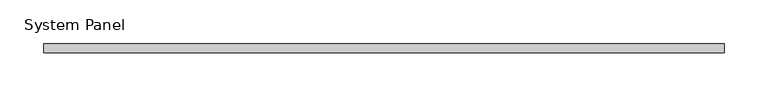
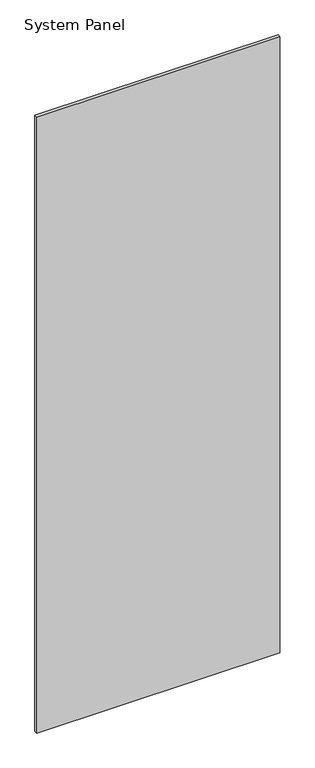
"""IFC4 building model written with IfcOpenShell, lengths in millimetres: plate geometry, System Panel : стекло_смещение_0."""

import ifcopenshell
import ifcopenshell.guid

model = None  # the IFC model being written
_history = None  # IfcOwnerHistory: only IFC2X3 demands one
_inside = {}  # id of a spatial element -> (the spatial element, [elements in it])
_under = {}  # id of a project, library or spatial element -> (it, [spatial elements below it])
_declared = {}  # id of a project -> (the project, [libraries it declares])
_typed = {}  # id of a type object -> (the type object, [elements of that type])
_made_of = {}  # id of a material, layer set ... -> (it, [elements and type objects made of it])


def new_model(schema):
    """Start an empty IFC model of exactly this schema.

    Asked for "IFC4X3", IfcOpenShell would pick the latest addendum, in which some entities
    have other attributes; the version numbers below select the first issue.
    IFC2X3 requires an IfcOwnerHistory on every rooted entity: one is made here for all.
    """
    global model, _history
    if schema == "IFC4X3":
        model = ifcopenshell.file(schema_version=(4, 3, 0, 0))
    else:
        model = ifcopenshell.file(schema=schema)
    _inside.clear()
    _under.clear()
    _declared.clear()
    _typed.clear()
    _made_of.clear()
    _history = None
    if model.schema == "IFC2X3":
        org = make("IfcOrganization", Name="unknown")
        user = make(
            "IfcPersonAndOrganization",
            ThePerson=make("IfcPerson", FamilyName="unknown"),
            TheOrganization=org,
        )
        app = make(
            "IfcApplication",
            ApplicationDeveloper=org,
            Version="unknown",
            ApplicationFullName="unknown",
            ApplicationIdentifier="unknown",
        )
        _history = make(
            "IfcOwnerHistory",
            OwningUser=user,
            OwningApplication=app,
            ChangeAction="ADDED",
            CreationDate=0,
        )
    return model


def make(cls, **values):
    """One entity of the class cls with the attributes given. An attribute that is None is left unset."""
    return model.create_entity(
        cls, **{name: value for name, value in values.items() if value is not None}
    )


def rooted(cls, **values):
    """An entity with a GlobalId (a new one), such as an element, a storey or a relation."""
    return make(cls, GlobalId=ifcopenshell.guid.new(), OwnerHistory=_history, **values)


def si_unit(unit_type, name, prefix=None):
    """IfcSIUnit, for example si_unit("LENGTHUNIT", "METRE", prefix="MILLI")."""
    return make("IfcSIUnit", UnitType=unit_type, Prefix=prefix, Name=name)


def assignment(units):
    """IfcUnitAssignment: the units of a project."""
    return None if units is None else make("IfcUnitAssignment", Units=units)


def point(xyz):
    """IfcCartesianPoint."""
    return None if xyz is None else make("IfcCartesianPoint", Coordinates=xyz)


def direction(xyz):
    """IfcDirection."""
    return None if xyz is None else make("IfcDirection", DirectionRatios=xyz)


def frame(location, z_axis=None, x_axis=None):
    """IfcAxis2Placement3D, a coordinate frame: its origin and axes. An axis left out is left unset."""
    return make(
        "IfcAxis2Placement3D",
        Location=point(location),
        Axis=direction(z_axis),
        RefDirection=direction(x_axis),
    )


def origin():
    """The frame at (0, 0, 0) with its axes left unset."""
    return frame((0.0, 0.0, 0.0))


def origin_with_axes():
    """The frame at (0, 0, 0) with the z axis (0, 0, 1) and the x axis (1, 0, 0) written out."""
    return frame((0.0, 0.0, 0.0), z_axis=(0.0, 0.0, 1.0), x_axis=(1.0, 0.0, 0.0))


def place(relative_to, where):
    """IfcLocalPlacement: puts the frame where relative to a parent placement (None: the world)."""
    return make(
        "IfcLocalPlacement", PlacementRelTo=relative_to, RelativePlacement=where
    )


def context(
    kind, dimensions, precision=None, world=None, true_north=None, identifier=None
):
    """IfcGeometricRepresentationContext, for example the 3D "Model" context."""
    return make(
        "IfcGeometricRepresentationContext",
        ContextIdentifier=identifier,
        ContextType=kind,
        CoordinateSpaceDimension=dimensions,
        Precision=precision,
        WorldCoordinateSystem=world,
        TrueNorth=true_north,
    )


def project(units=None, contexts=None):
    """IfcProject with its units and contexts."""
    return rooted(
        "IfcProject",
        Name="project",
        RepresentationContexts=contexts,
        UnitsInContext=assignment(units),
    )


def spatial(cls, under=None, at=None, **own):
    """A site, building, storey or space (cls), placed at a placement, below another one or the project."""
    s = rooted(cls, ObjectPlacement=at, **own)
    if under is not None:
        _under.setdefault(under.id(), (under, []))[1].append(s)
    return s


def polyline(points):
    """IfcPolyline through the points."""
    return make("IfcPolyline", Points=[point(p) for p in points])


def outline(outer, holes=None, kind="AREA"):
    """IfcArbitraryClosedProfileDef: a profile drawn as a closed curve; with holes, ...WithVoids."""
    if holes is None:
        return make("IfcArbitraryClosedProfileDef", ProfileType=kind, OuterCurve=outer)
    return make(
        "IfcArbitraryProfileDefWithVoids",
        ProfileType=kind,
        OuterCurve=outer,
        InnerCurves=holes,
    )


def extrude(swept, where, along, depth):
    """IfcExtrudedAreaSolid: the profile swept, set in the frame where, extruded along a direction by depth."""
    return make(
        "IfcExtrudedAreaSolid",
        SweptArea=swept,
        Position=where,
        ExtrudedDirection=direction(along),
        Depth=depth,
    )


def shape(context_of_items, identifier, shape_type, items):
    """IfcShapeRepresentation: the items that make up one representation, for example the "Body"."""
    return make(
        "IfcShapeRepresentation",
        ContextOfItems=context_of_items,
        RepresentationIdentifier=identifier,
        RepresentationType=shape_type,
        Items=items,
    )


def source(mapping_origin, context_of_items, identifier, shape_type, items):
    """IfcRepresentationMap: a shape defined once, which mapped items show again and again."""
    return make(
        "IfcRepresentationMap",
        MappingOrigin=mapping_origin,
        MappedRepresentation=shape(context_of_items, identifier, shape_type, items),
    )


def transform(
    local_origin,
    x_axis=None,
    y_axis=None,
    z_axis=None,
    scale=None,
    scale2=None,
    scale3=None,
    uniform=True,
):
    """IfcCartesianTransformationOperator3D, or its non-uniform kind. x_axis, y_axis, z_axis: its Axis1, 2, 3."""
    if uniform:
        return make(
            "IfcCartesianTransformationOperator3D",
            Axis1=direction(x_axis),
            Axis2=direction(y_axis),
            LocalOrigin=point(local_origin),
            Scale=scale,
            Axis3=direction(z_axis),
        )
    return make(
        "IfcCartesianTransformationOperator3DnonUniform",
        Axis1=direction(x_axis),
        Axis2=direction(y_axis),
        LocalOrigin=point(local_origin),
        Scale=scale,
        Axis3=direction(z_axis),
        Scale2=scale2,
        Scale3=scale3,
    )


def mapped(mapping_source, mapping_target):
    """IfcMappedItem: shows the shape of a source again, moved by a transform."""
    return make(
        "IfcMappedItem", MappingSource=mapping_source, MappingTarget=mapping_target
    )


def made_of(thing, what):
    """Note that an element or type object is made of a material, layer set ...; save() writes the relation."""
    if what is not None:
        _made_of.setdefault(what.id(), (what, []))[1].append(thing)
    return thing


def element(
    cls,
    number,
    at=None,
    inside=None,
    cuts=None,
    type_object=None,
    material=None,
    context=None,
    identifier="Body",
    shape_type=None,
    held_by="IfcProductDefinitionShape",
    body=None,
    shapes=None,
    **own,
):
    """One element of the class cls, such as IfcWall. Its Tag is "e" and its number.

    at: its placement. inside: the storey or other place that contains it. cuts: it is an
    opening in that element (IfcRelVoidsElement). A single representation is given by context,
    identifier, shape_type and body (its items); several are given by shapes. held_by: the class
    of the entity that holds the representations. save() writes the other relations.
    """
    e = rooted(cls, Tag="e%d" % number, ObjectPlacement=at, **own)
    if body is not None:
        shapes = [shape(context, identifier, shape_type, body)]
    if shapes is not None:
        e.Representation = make(held_by, Representations=shapes)
    if inside is not None:
        _inside.setdefault(inside.id(), (inside, []))[1].append(e)
    if cuts is not None:
        rooted(
            "IfcRelVoidsElement", RelatingBuildingElement=cuts, RelatedOpeningElement=e
        )
    if type_object is not None:
        _typed.setdefault(type_object.id(), (type_object, []))[1].append(e)
    return made_of(e, material)


def aggregate(whole, parts):
    """IfcRelAggregates: a whole, such as a stair, and the parts it consists of."""
    return rooted("IfcRelAggregates", RelatingObject=whole, RelatedObjects=parts)


def save(model, path):
    """Write the relations noted so far, then the file.

    IfcRelAggregates (storeys below a building ...), IfcRelContainedInSpatialStructure (elements
    in a storey), IfcRelDefinesByType, IfcRelAssociatesMaterial and IfcRelDeclares: one each for
    every whole, place, type object, material and project.
    """
    for whole, parts in _under.values():
        aggregate(whole, parts)
    for where, things in _inside.values():
        rooted(
            "IfcRelContainedInSpatialStructure",
            RelatedElements=things,
            RelatingStructure=where,
        )
    for kind, things in _typed.values():
        rooted("IfcRelDefinesByType", RelatedObjects=things, RelatingType=kind)
    for what, things in _made_of.values():
        rooted("IfcRelAssociatesMaterial", RelatedObjects=things, RelatingMaterial=what)
    for by, libraries in _declared.values():
        rooted("IfcRelDeclares", RelatingContext=by, RelatedDefinitions=libraries)
    model.write(path)


def system_panel_19a0d8a5(model_context):
    return source(origin(), model_context, "Body", "SweptSolid", [
        extrude(outline(polyline([(387.5, -5.0), (-387.5, -5.0), (-387.5, 5.0), (387.5, 5.0), (387.5, -5.0)])), origin_with_axes(), (0.0, 0.0, 1.0), 2075.0),
    ])


if __name__ == "__main__":
    model = new_model("IFC4")
    model_context = context("Model", 3, world=origin())
    ifc_project = project(units=[si_unit("LENGTHUNIT", "METRE", prefix="MILLI")], contexts=[model_context])
    site = spatial("IfcSite", under=ifc_project)
    building = spatial("IfcBuilding", under=site)
    placement = place(None, origin())
    system_panel_shape = system_panel_19a0d8a5(model_context)
    element("IfcPlate", 1, ObjectType="System Panel : стекло_смещение_0", at=placement, inside=building, context=model_context, shape_type="MappedRepresentation", body=[
        mapped(system_panel_shape, transform((0.0, 0.0, 0.0), x_axis=(1.0, 0.0, 0.0), y_axis=(0.0, 1.0, 0.0), z_axis=(0.0, 0.0, 1.0))),
    ])
    save(model, "model.ifc")
